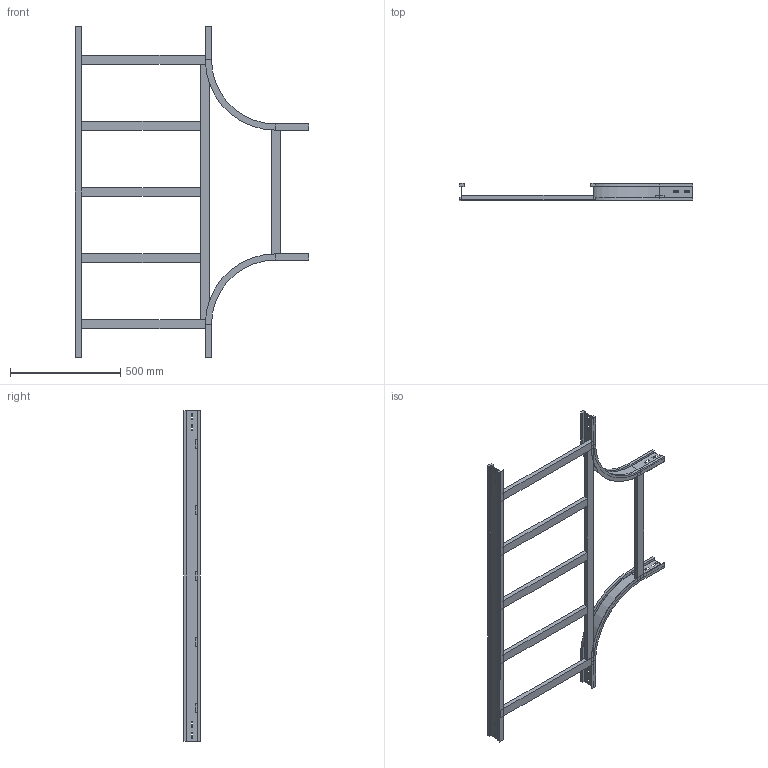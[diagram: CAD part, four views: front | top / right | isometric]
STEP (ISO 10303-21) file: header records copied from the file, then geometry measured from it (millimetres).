
FILE_DESCRIPTION (( 'STEP AP214' ), '1' );
FILE_NAME ('15S3C600.step', '2025-02-21T16:14:55', ( '' ), ( '' ), 'SwSTEP 2.0', 'SolidWorks 2023', '' );
FILE_SCHEMA (( 'AUTOMOTIVE_DESIGN' ));
Length unit declared in the file: millimetre
Products named in the file (6): LONGH.INTERNO 90°_H75_R300; TRAVERSINO_600; 15S3C600; TRAVERSINO_LONG._R300+600; LONGH.RETT_H75_R300+600; TRAVERSINO_INTERMEDIO_R300+600
Assembly tree (10 placements, depth 2):
  15S3C600
    LONGH.INTERNO 90°_H75_R300  x2
    LONGH.RETT_H75_R300+600
    TRAVERSINO_600  x3
    TRAVERSINO_LONG._R300+600
    TRAVERSINO_INTERMEDIO_R300+600  x3
Bounding box: 1059 x 75 x 1500 mm (x, y, z)
Volume: 5238530.8 mm3; surface area: 1321972.4 mm2
Topology: 10 solids, 10 shells, 180 faces, 432 edges, 272 vertices
Faces by surface type: plane 168, cylinder 12
Entity records: 3195 total; most frequent: CARTESIAN_POINT 527, ORIENTED_EDGE 504, DIRECTION 494, EDGE_CURVE 252, VECTOR 240, LINE 240, VERTEX_POINT 160, AXIS2_PLACEMENT_3D 127
